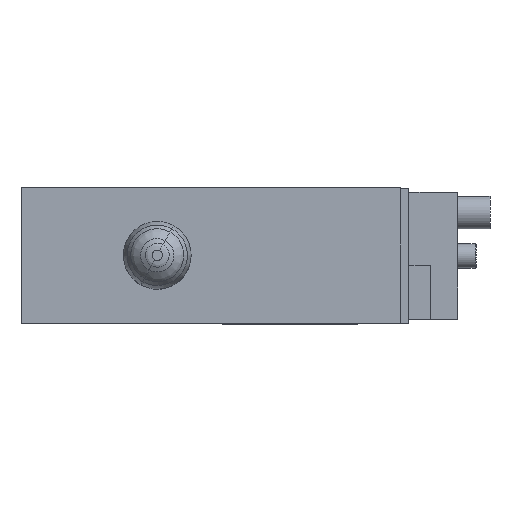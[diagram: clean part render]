
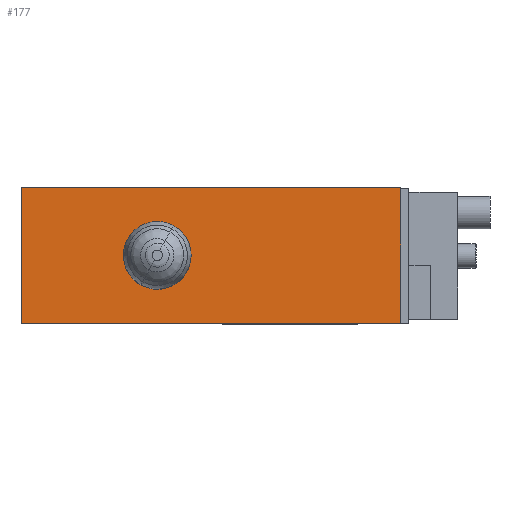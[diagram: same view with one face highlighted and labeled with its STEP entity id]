
A CAD part, top view. The second image highlights one B-rep face of the part: STEP entity #177.
In plain terms, the highlighted planar face has unit normal (0, 0, 1).
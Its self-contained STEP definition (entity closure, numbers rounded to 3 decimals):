
#52=CARTESIAN_POINT('Axis2P3D Location',(0.,0.,0.)) ;
#57=CARTESIAN_POINT('Line Origine',(20.,-25.,0.)) ;
#61=CARTESIAN_POINT('Vertex',(-50.,-25.,0.)) ;
#63=CARTESIAN_POINT('Vertex',(90.,-25.,0.)) ;
#66=CARTESIAN_POINT('Line Origine',(90.,0.,0.)) ;
#70=CARTESIAN_POINT('Vertex',(90.,25.,0.)) ;
#73=CARTESIAN_POINT('Line Origine',(20.,25.,0.)) ;
#77=CARTESIAN_POINT('Vertex',(-50.,25.,0.)) ;
#80=CARTESIAN_POINT('Line Origine',(-50.,0.,0.)) ;
#91=CARTESIAN_POINT('Line Origine',(10.,0.,0.)) ;
#95=CARTESIAN_POINT('Vertex',(10.,-5.,0.)) ;
#97=CARTESIAN_POINT('Vertex',(10.,5.,0.)) ;
#100=CARTESIAN_POINT('Line Origine',(4.432,-5.,0.)) ;
#104=CARTESIAN_POINT('Vertex',(-1.136,-5.,0.)) ;
#107=CARTESIAN_POINT('Line Origine',(-1.136,0.,0.)) ;
#111=CARTESIAN_POINT('Vertex',(-1.136,5.,0.)) ;
#114=CARTESIAN_POINT('Line Origine',(4.432,5.,0.)) ;
#125=CARTESIAN_POINT('Line Origine',(0.,-5.5,0.)) ;
#129=CARTESIAN_POINT('Vertex',(-11.225,-5.5,0.)) ;
#131=CARTESIAN_POINT('Vertex',(11.225,-5.5,0.)) ;
#134=CARTESIAN_POINT('Axis2P3D Location',(0.,0.,0.)) ;
#138=CARTESIAN_POINT('Vertex',(-5.993,-10.97,0.)) ;
#141=CARTESIAN_POINT('Axis2P3D Location',(0.,0.,0.)) ;
#151=CARTESIAN_POINT('Line Origine',(0.,5.5,0.)) ;
#155=CARTESIAN_POINT('Vertex',(-11.225,5.5,0.)) ;
#157=CARTESIAN_POINT('Vertex',(11.225,5.5,0.)) ;
#160=CARTESIAN_POINT('Axis2P3D Location',(0.,0.,0.)) ;
#164=CARTESIAN_POINT('Vertex',(5.993,10.97,0.)) ;
#167=CARTESIAN_POINT('Axis2P3D Location',(0.,0.,0.)) ;
#53=DIRECTION('Axis2P3D Direction',(0.,0.,1.)) ;
#54=DIRECTION('Axis2P3D XDirection',(1.,0.,0.)) ;
#58=DIRECTION('Vector Direction',(1.,0.,0.)) ;
#67=DIRECTION('Vector Direction',(0.,1.,0.)) ;
#74=DIRECTION('Vector Direction',(-1.,0.,0.)) ;
#81=DIRECTION('Vector Direction',(0.,-1.,0.)) ;
#92=DIRECTION('Vector Direction',(0.,1.,0.)) ;
#101=DIRECTION('Vector Direction',(-1.,0.,0.)) ;
#108=DIRECTION('Vector Direction',(0.,1.,0.)) ;
#115=DIRECTION('Vector Direction',(-1.,0.,0.)) ;
#126=DIRECTION('Vector Direction',(1.,0.,0.)) ;
#135=DIRECTION('Axis2P3D Direction',(0.,0.,1.)) ;
#142=DIRECTION('Axis2P3D Direction',(0.,0.,1.)) ;
#152=DIRECTION('Vector Direction',(1.,0.,0.)) ;
#161=DIRECTION('Axis2P3D Direction',(0.,0.,1.)) ;
#168=DIRECTION('Axis2P3D Direction',(0.,0.,1.)) ;
#55=AXIS2_PLACEMENT_3D('Plane Axis2P3D',#52,#53,#54) ;
#136=AXIS2_PLACEMENT_3D('Circle Axis2P3D',#134,#135,$) ;
#143=AXIS2_PLACEMENT_3D('Circle Axis2P3D',#141,#142,$) ;
#162=AXIS2_PLACEMENT_3D('Circle Axis2P3D',#160,#161,$) ;
#169=AXIS2_PLACEMENT_3D('Circle Axis2P3D',#167,#168,$) ;
#86=ORIENTED_EDGE('',*,*,#65,.T.) ;
#87=ORIENTED_EDGE('',*,*,#72,.T.) ;
#88=ORIENTED_EDGE('',*,*,#79,.T.) ;
#89=ORIENTED_EDGE('',*,*,#84,.T.) ;
#120=ORIENTED_EDGE('',*,*,#99,.F.) ;
#121=ORIENTED_EDGE('',*,*,#106,.T.) ;
#122=ORIENTED_EDGE('',*,*,#113,.T.) ;
#123=ORIENTED_EDGE('',*,*,#118,.F.) ;
#147=ORIENTED_EDGE('',*,*,#133,.T.) ;
#148=ORIENTED_EDGE('',*,*,#140,.T.) ;
#149=ORIENTED_EDGE('',*,*,#145,.T.) ;
#173=ORIENTED_EDGE('',*,*,#159,.F.) ;
#174=ORIENTED_EDGE('',*,*,#166,.T.) ;
#175=ORIENTED_EDGE('',*,*,#171,.T.) ;
#124=FACE_BOUND('',#119,.T.) ;
#150=FACE_BOUND('',#146,.T.) ;
#176=FACE_BOUND('',#172,.T.) ;
#59=VECTOR('Line Direction',#58,1.) ;
#68=VECTOR('Line Direction',#67,1.) ;
#75=VECTOR('Line Direction',#74,1.) ;
#82=VECTOR('Line Direction',#81,1.) ;
#93=VECTOR('Line Direction',#92,1.) ;
#102=VECTOR('Line Direction',#101,1.) ;
#109=VECTOR('Line Direction',#108,1.) ;
#116=VECTOR('Line Direction',#115,1.) ;
#127=VECTOR('Line Direction',#126,1.) ;
#153=VECTOR('Line Direction',#152,1.) ;
#177=ADVANCED_FACE('K_32.1_UZ_A25_T12_Tuenkers',(#90,#124,#150,#176),#56,.T.) ;
#137=CIRCLE('generated circle',#136,12.5) ;
#144=CIRCLE('generated circle',#143,12.5) ;
#163=CIRCLE('generated circle',#162,12.5) ;
#170=CIRCLE('generated circle',#169,12.5) ;
#65=EDGE_CURVE('',#62,#64,#60,.T.) ;
#72=EDGE_CURVE('',#64,#71,#69,.T.) ;
#79=EDGE_CURVE('',#71,#78,#76,.T.) ;
#84=EDGE_CURVE('',#78,#62,#83,.T.) ;
#99=EDGE_CURVE('',#96,#98,#94,.T.) ;
#106=EDGE_CURVE('',#96,#105,#103,.T.) ;
#113=EDGE_CURVE('',#105,#112,#110,.T.) ;
#118=EDGE_CURVE('',#98,#112,#117,.T.) ;
#133=EDGE_CURVE('',#130,#132,#128,.T.) ;
#140=EDGE_CURVE('',#132,#139,#137,.F.) ;
#145=EDGE_CURVE('',#139,#130,#144,.F.) ;
#159=EDGE_CURVE('',#156,#158,#154,.T.) ;
#166=EDGE_CURVE('',#156,#165,#163,.F.) ;
#171=EDGE_CURVE('',#165,#158,#170,.F.) ;
#85=EDGE_LOOP('',(#86,#87,#88,#89)) ;
#119=EDGE_LOOP('',(#120,#121,#122,#123)) ;
#146=EDGE_LOOP('',(#147,#148,#149)) ;
#172=EDGE_LOOP('',(#173,#174,#175)) ;
#90=FACE_OUTER_BOUND('',#85,.T.) ;
#60=LINE('Line',#57,#59) ;
#69=LINE('Line',#66,#68) ;
#76=LINE('Line',#73,#75) ;
#83=LINE('Line',#80,#82) ;
#94=LINE('Line',#91,#93) ;
#103=LINE('Line',#100,#102) ;
#110=LINE('Line',#107,#109) ;
#117=LINE('Line',#114,#116) ;
#128=LINE('Line',#125,#127) ;
#154=LINE('Line',#151,#153) ;
#56=PLANE('Plane',#55) ;
#62=VERTEX_POINT('',#61) ;
#64=VERTEX_POINT('',#63) ;
#71=VERTEX_POINT('',#70) ;
#78=VERTEX_POINT('',#77) ;
#96=VERTEX_POINT('',#95) ;
#98=VERTEX_POINT('',#97) ;
#105=VERTEX_POINT('',#104) ;
#112=VERTEX_POINT('',#111) ;
#130=VERTEX_POINT('',#129) ;
#132=VERTEX_POINT('',#131) ;
#139=VERTEX_POINT('',#138) ;
#156=VERTEX_POINT('',#155) ;
#158=VERTEX_POINT('',#157) ;
#165=VERTEX_POINT('',#164) ;
